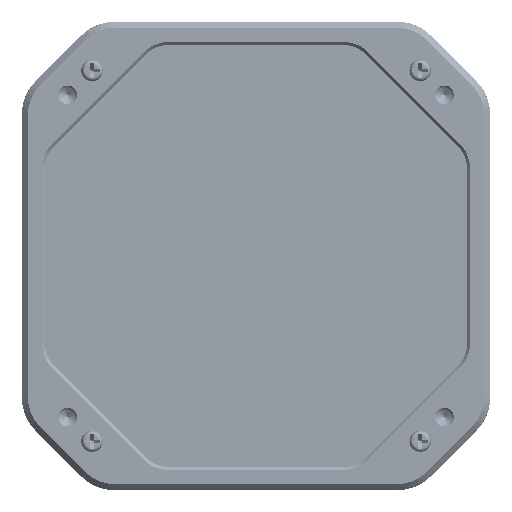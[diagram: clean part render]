
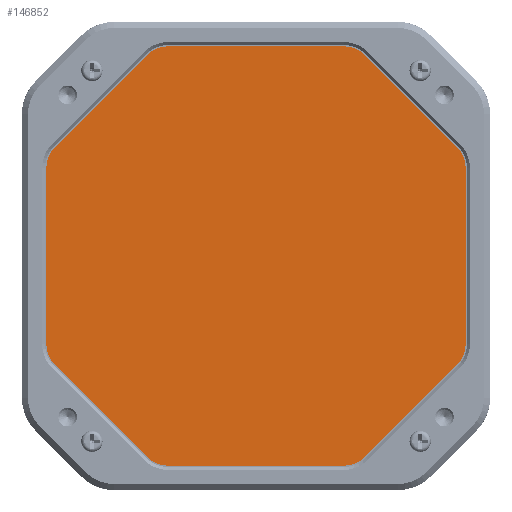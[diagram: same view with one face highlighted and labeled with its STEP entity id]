
A CAD part, left-side view. The second image highlights one B-rep face of the part: STEP entity #146852.
In plain terms, the highlighted planar face has unit normal (-1, 0, 0) as drawn and (1, 0, 0) by its records, which use the part's own axes.
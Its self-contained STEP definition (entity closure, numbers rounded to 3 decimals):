
#146429=CARTESIAN_POINT('',(1.5,29.5,-14.429));
#146430=DIRECTION('',(1.,0.,0.));
#146431=DIRECTION('',(0.,0.707,-0.707));
#146432=AXIS2_PLACEMENT_3D('',#146429,#146430,#146431);
#146434=DIRECTION('',(0.,0.707,0.707));
#146435=VECTOR('',#146434,21.314);
#146436=CARTESIAN_POINT('',(1.5,17.964,-33.036));
#146437=LINE('',#146436,#146435);
#146438=CARTESIAN_POINT('',(1.5,14.429,-29.5));
#146439=DIRECTION('',(1.,0.,0.));
#146440=DIRECTION('',(0.,0.,-1.));
#146441=AXIS2_PLACEMENT_3D('',#146438,#146439,#146440);
#146443=DIRECTION('',(0.,1.,0.));
#146444=VECTOR('',#146443,28.858);
#146445=CARTESIAN_POINT('',(1.5,-14.429,-34.5));
#146446=LINE('',#146445,#146444);
#146447=CARTESIAN_POINT('',(1.5,-14.429,-29.5));
#146448=DIRECTION('',(1.,0.,0.));
#146449=DIRECTION('',(0.,-0.707,-0.707));
#146450=AXIS2_PLACEMENT_3D('',#146447,#146448,#146449);
#146452=DIRECTION('',(0.,0.707,-0.707));
#146453=VECTOR('',#146452,21.314);
#146454=CARTESIAN_POINT('',(1.5,-33.036,-17.964));
#146455=LINE('',#146454,#146453);
#146456=CARTESIAN_POINT('',(1.5,-29.5,-14.429));
#146457=DIRECTION('',(1.,0.,0.));
#146458=DIRECTION('',(0.,-1.,0.));
#146459=AXIS2_PLACEMENT_3D('',#146456,#146457,#146458);
#146461=DIRECTION('',(0.,0.,-1.));
#146462=VECTOR('',#146461,28.858);
#146463=CARTESIAN_POINT('',(1.5,-34.5,14.429));
#146464=LINE('',#146463,#146462);
#146465=CARTESIAN_POINT('',(1.5,-29.5,14.429));
#146466=DIRECTION('',(1.,0.,0.));
#146467=DIRECTION('',(0.,-0.707,0.707));
#146468=AXIS2_PLACEMENT_3D('',#146465,#146466,#146467);
#146470=DIRECTION('',(0.,-0.707,-0.707));
#146471=VECTOR('',#146470,21.314);
#146472=CARTESIAN_POINT('',(1.5,-17.964,33.036));
#146473=LINE('',#146472,#146471);
#146474=CARTESIAN_POINT('',(1.5,-14.429,29.5));
#146475=DIRECTION('',(1.,0.,0.));
#146476=DIRECTION('',(0.,0.,1.));
#146477=AXIS2_PLACEMENT_3D('',#146474,#146475,#146476);
#146479=DIRECTION('',(0.,-1.,0.));
#146480=VECTOR('',#146479,28.858);
#146481=CARTESIAN_POINT('',(1.5,14.429,34.5));
#146482=LINE('',#146481,#146480);
#146483=CARTESIAN_POINT('',(1.5,14.429,29.5));
#146484=DIRECTION('',(1.,0.,0.));
#146485=DIRECTION('',(0.,0.707,0.707));
#146486=AXIS2_PLACEMENT_3D('',#146483,#146484,#146485);
#146488=DIRECTION('',(0.,-0.707,0.707));
#146489=VECTOR('',#146488,21.314);
#146490=CARTESIAN_POINT('',(1.5,33.036,17.964));
#146491=LINE('',#146490,#146489);
#146492=CARTESIAN_POINT('',(1.5,29.5,14.429));
#146493=DIRECTION('',(1.,0.,0.));
#146494=DIRECTION('',(0.,1.,0.));
#146495=AXIS2_PLACEMENT_3D('',#146492,#146493,#146494);
#146497=DIRECTION('',(0.,0.,1.));
#146498=VECTOR('',#146497,28.858);
#146499=CARTESIAN_POINT('',(1.5,34.5,-14.429));
#146500=LINE('',#146499,#146498);
#146505=CARTESIAN_POINT('',(1.5,33.036,-17.964));
#146506=VERTEX_POINT('',#146505);
#146507=CARTESIAN_POINT('',(1.5,34.5,-14.429));
#146508=VERTEX_POINT('',#146507);
#146513=CARTESIAN_POINT('',(1.5,34.5,14.429));
#146514=VERTEX_POINT('',#146513);
#146515=CARTESIAN_POINT('',(1.5,33.036,17.964));
#146516=VERTEX_POINT('',#146515);
#146521=CARTESIAN_POINT('',(1.5,17.964,33.036));
#146522=VERTEX_POINT('',#146521);
#146523=CARTESIAN_POINT('',(1.5,14.429,34.5));
#146524=VERTEX_POINT('',#146523);
#146529=CARTESIAN_POINT('',(1.5,-14.429,34.5));
#146530=VERTEX_POINT('',#146529);
#146531=CARTESIAN_POINT('',(1.5,-17.964,33.036));
#146532=VERTEX_POINT('',#146531);
#146537=CARTESIAN_POINT('',(1.5,-33.036,17.964));
#146538=VERTEX_POINT('',#146537);
#146539=CARTESIAN_POINT('',(1.5,-34.5,14.429));
#146540=VERTEX_POINT('',#146539);
#146545=CARTESIAN_POINT('',(1.5,-34.5,-14.429));
#146546=VERTEX_POINT('',#146545);
#146547=CARTESIAN_POINT('',(1.5,-33.036,-17.964));
#146548=VERTEX_POINT('',#146547);
#146553=CARTESIAN_POINT('',(1.5,-17.964,-33.036));
#146554=VERTEX_POINT('',#146553);
#146555=CARTESIAN_POINT('',(1.5,-14.429,-34.5));
#146556=VERTEX_POINT('',#146555);
#146561=CARTESIAN_POINT('',(1.5,14.429,-34.5));
#146562=VERTEX_POINT('',#146561);
#146563=CARTESIAN_POINT('',(1.5,17.964,-33.036));
#146564=VERTEX_POINT('',#146563);
#146829=CARTESIAN_POINT('',(1.5,0.,0.));
#146830=DIRECTION('',(1.,0.,0.));
#146831=DIRECTION('',(0.,-1.,0.));
#146832=AXIS2_PLACEMENT_3D('',#146829,#146830,#146831);
#146833=PLANE('',#146832);
#146834=ORIENTED_EDGE('',*,*,#146613,.F.);
#146835=ORIENTED_EDGE('',*,*,#146629,.F.);
#146836=ORIENTED_EDGE('',*,*,#146642,.F.);
#146837=ORIENTED_EDGE('',*,*,#146655,.F.);
#146838=ORIENTED_EDGE('',*,*,#146670,.F.);
#146839=ORIENTED_EDGE('',*,*,#146683,.F.);
#146840=ORIENTED_EDGE('',*,*,#146698,.F.);
#146841=ORIENTED_EDGE('',*,*,#146711,.F.);
#146842=ORIENTED_EDGE('',*,*,#146726,.F.);
#146843=ORIENTED_EDGE('',*,*,#146739,.F.);
#146844=ORIENTED_EDGE('',*,*,#146754,.F.);
#146845=ORIENTED_EDGE('',*,*,#146767,.F.);
#146846=ORIENTED_EDGE('',*,*,#146782,.F.);
#146847=ORIENTED_EDGE('',*,*,#146795,.F.);
#146848=ORIENTED_EDGE('',*,*,#146810,.F.);
#146849=ORIENTED_EDGE('',*,*,#146822,.F.);
#146850=EDGE_LOOP('',(#146834,#146835,#146836,#146837,#146838,#146839,#146840,
#146841,#146842,#146843,#146844,#146845,#146846,#146847,#146848,#146849));
#146851=FACE_OUTER_BOUND('',#146850,.F.);
#146852=ADVANCED_FACE('',(#146851),#146833,.T.);
#146433=CIRCLE('',#146432,5.);
#146442=CIRCLE('',#146441,5.);
#146451=CIRCLE('',#146450,5.);
#146460=CIRCLE('',#146459,5.);
#146469=CIRCLE('',#146468,5.);
#146478=CIRCLE('',#146477,5.);
#146487=CIRCLE('',#146486,5.);
#146496=CIRCLE('',#146495,5.);
#146613=EDGE_CURVE('',#146506,#146508,#146433,.T.);
#146629=EDGE_CURVE('',#146564,#146506,#146437,.T.);
#146642=EDGE_CURVE('',#146562,#146564,#146442,.T.);
#146655=EDGE_CURVE('',#146556,#146562,#146446,.T.);
#146670=EDGE_CURVE('',#146554,#146556,#146451,.T.);
#146683=EDGE_CURVE('',#146548,#146554,#146455,.T.);
#146698=EDGE_CURVE('',#146546,#146548,#146460,.T.);
#146711=EDGE_CURVE('',#146540,#146546,#146464,.T.);
#146726=EDGE_CURVE('',#146538,#146540,#146469,.T.);
#146739=EDGE_CURVE('',#146532,#146538,#146473,.T.);
#146754=EDGE_CURVE('',#146530,#146532,#146478,.T.);
#146767=EDGE_CURVE('',#146524,#146530,#146482,.T.);
#146782=EDGE_CURVE('',#146522,#146524,#146487,.T.);
#146795=EDGE_CURVE('',#146516,#146522,#146491,.T.);
#146810=EDGE_CURVE('',#146514,#146516,#146496,.T.);
#146822=EDGE_CURVE('',#146508,#146514,#146500,.T.);
